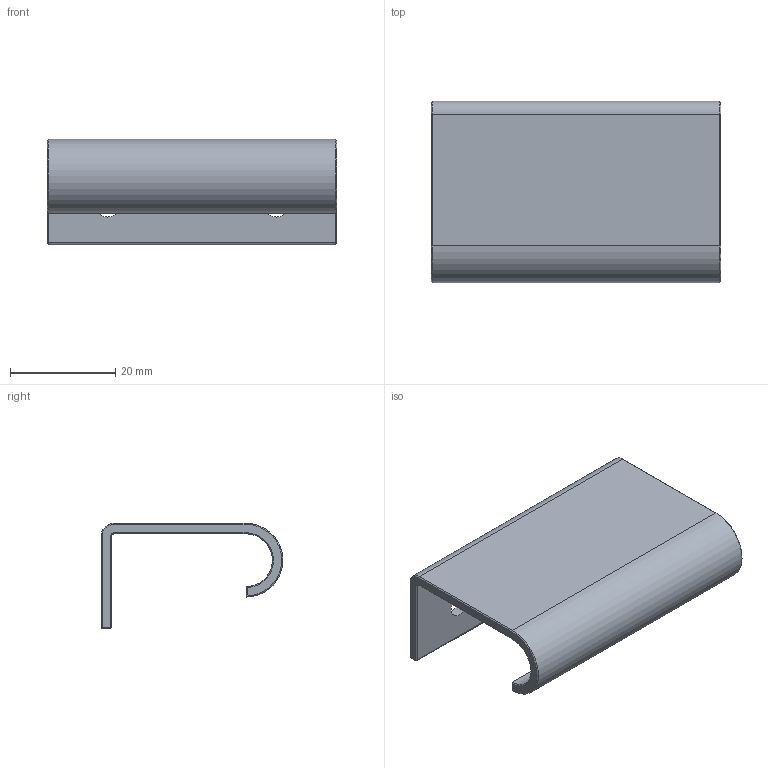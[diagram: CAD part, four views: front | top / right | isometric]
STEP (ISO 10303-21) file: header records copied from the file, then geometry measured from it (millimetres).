
FILE_DESCRIPTION(('Open CASCADE Model'),'2;1');
FILE_NAME('RL-LIP-R-55','2026-10-19T21:24:01',('Author'),('Open CASCADE' ),'Open CASCADE STEP processor 8.0','build123d','Unknown');
FILE_SCHEMA(('AUTOMOTIVE_DESIGN { 1 0 10303 214 1 1 1 1 }'));
Length unit declared in the file: millimetre
Products named in the file (2): RL-LIP-R-55; brass_RL-LIPR55-18__e
Assembly tree (1 placements, depth 2):
  RL-LIP-R-55
    brass_RL-LIPR55-18__e
Bounding box: 55 x 34.5 x 20 mm (x, y, z)
Volume: 6935 mm3; surface area: 7425.5 mm2
Topology: 1 solids, 1 shells, 40 faces, 90 edges, 52 vertices
Faces by surface type: plane 20, cone 12, cylinder 8
Full cylindrical faces by diameter (mm): 4.5 x2
Entity records: 2302 total; most frequent: CARTESIAN_POINT 492, DIRECTION 328, ORIENTED_EDGE 180, PCURVE 180, DEFINITIONAL_REPRESENTATION 180, LINE 174, VECTOR 174, EDGE_CURVE 90
